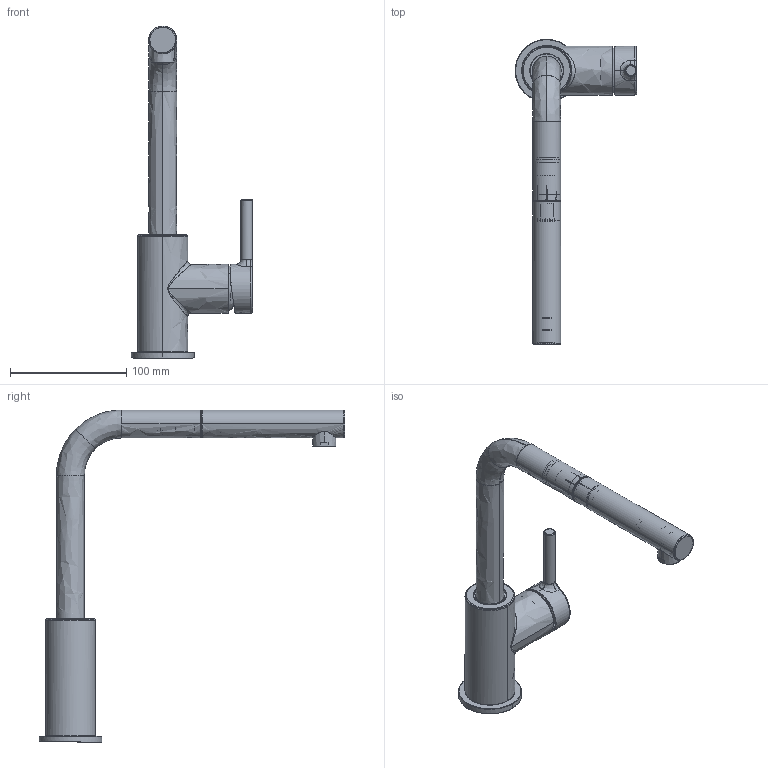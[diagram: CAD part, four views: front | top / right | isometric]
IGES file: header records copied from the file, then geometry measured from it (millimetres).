
Global section: file name: F:\_CONVERSIONE_CAD_2024_2025\_2024\03_3D kits new\Taps\3D001_Taps_Lina_L-Pull-Out-Nozzle\3D001_Taps_Lina_L-Pull-Out-Nozzle.igs; native system: Rhinoceros ( Feb 13 2024 ); preprocessor: Trout Lake IGES 012 Feb 13 2024; date: 240312.145006; units: millimetre
Bounding box: 104.37 x 263 x 285.5 mm (x, y, z)
Surface area: 133308.9 mm2 (no closed solid volume)
Topology: 0 solids, 0 shells, 956 faces, 5200 edges, 5181 vertices
Faces by surface type: bspline 956
